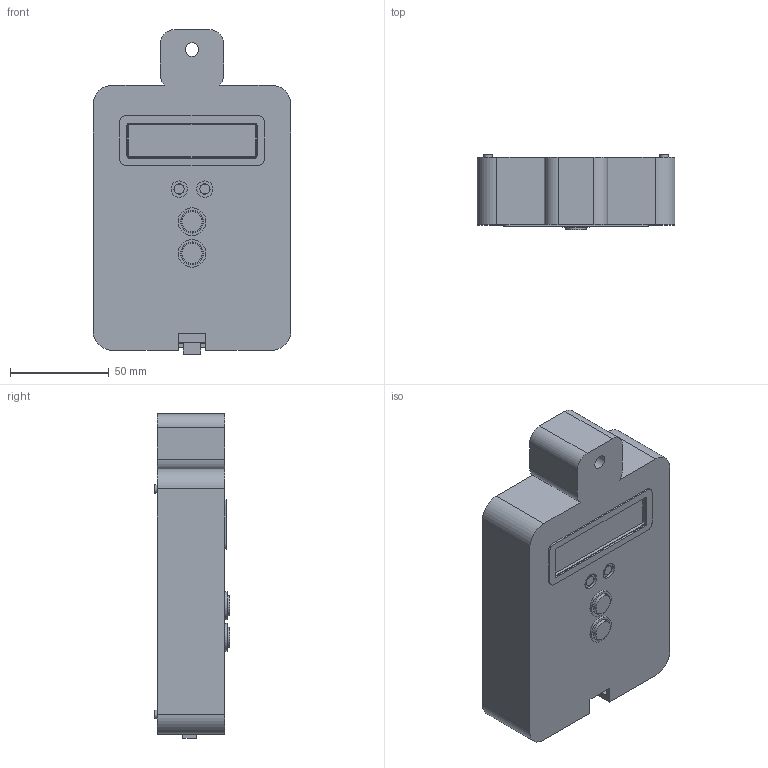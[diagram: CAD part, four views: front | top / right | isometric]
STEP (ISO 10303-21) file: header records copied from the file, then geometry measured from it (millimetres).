
FILE_DESCRIPTION(('Open CASCADE Model'),'2;1');
FILE_NAME('AETHER KEYNODE V1 - layout assembly','2026-10-12T13:28:42',( 'Author'),('Open CASCADE'),'Open CASCADE STEP processor 7.9', 'build123d','Unknown');
FILE_SCHEMA(('AUTOMOTIVE_DESIGN { 1 0 10303 214 1 1 1 1 }'));
Length unit declared in the file: millimetre
Products named in the file (59): AETHER KEYNODE V1 - layout assembly; Printed housing and fasteners; Housing - front shell; Rear cover - removable; Rear cover screw 1 (generic); Rear cover screw 2 (generic); Rear cover screw 3 (generic); Rear cover screw 4 (generic); Front controls and indicators; Round actuator - high priority; Round actuator - low / acknowledge; Green status LED 5mm; Red alert LED 5mm; 6x6 tactile switch 1 envelope; 6x6 tactile switch 2 envelope; 16x2 LCD module reference envelopes; 16x2 LCD PCB envelope 80x36; LCD visible area 64x16; I2C backpack envelope; ESP32 DevKit V1 reference envelopes; ESP32 DevKit V1 PCB envelope 52x28; ESP32 module envelope; USB connector envelope - confirm variant; ESP32 header pin 01; ESP32 header pin 02; ESP32 header pin 03; ESP32 header pin 04; ESP32 header pin 05; ESP32 header pin 06; ESP32 header pin 07; ESP32 header pin 08; ESP32 header pin 09; ESP32 header pin 10; ESP32 header pin 11; ESP32 header pin 12; ESP32 header pin 13; ESP32 header pin 14; ESP32 header pin 15; ESP32 header pin 16; ESP32 header pin 17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
Assembly tree (58 placements, depth 3):
  AETHER KEYNODE V1 - layout assembly
    Printed housing and fasteners
      Housing - front shell
      Rear cover - removable
      Rear cover screw 1 (generic)
      Rear cover screw 2 (generic)
      Rear cover screw 3 (generic)
      Rear cover screw 4 (generic)
    Front controls and indicators
      Round actuator - high priority
      Round actuator - low / acknowledge
      Green status LED 5mm
      Red alert LED 5mm
      6x6 tactile switch 1 envelope
      6x6 tactile switch 2 envelope
    16x2 LCD module reference envelopes
      16x2 LCD PCB envelope 80x36
      LCD visible area 64x16
      I2C backpack envelope
    ESP32 DevKit V1 reference envelopes
      ESP32 DevKit V1 PCB envelope 52x28
      ESP32 module envelope
      USB connector envelope - confirm variant
      ESP32 header pin 01
      ESP32 header pin 02
      ESP32 header pin 03
      ESP32 header pin 04
      ESP32 header pin 05
      ESP32 header pin 06
      ESP32 header pin 07
      ESP32 header pin 08
      ESP32 header pin 09
      ESP32 header pin 10
      ESP32 header pin 11
      ESP32 header pin 12
      ESP32 header pin 13
      ESP32 header pin 14
      ESP32 header pin 15
      ESP32 header pin 16
      ESP32 header pin 17
      ESP32 header pin 18
      ESP32 header pin 19
      ESP32 header pin 20
      ESP32 header pin 21
      ESP32 header pin 22
      ESP32 header pin 23
      ESP32 header pin 24
      ESP32 header pin 25
      ESP32 header pin 26
      ESP32 header pin 27
      ESP32 header pin 28
      ESP32 header pin 29
      ESP32 header pin 30
    Passives and buzzer reference envelopes
      LED current-limit resistor 1 (220-330 ohm)
      LED current-limit resistor 2 (220-330 ohm)
      Two-pin active buzzer 12x7 envelope
      Buzzer pin 1
      Buzzer pin 2
Bounding box: 100 x 37.9 x 164 mm (x, y, z)
Volume: 167123.6 mm3; surface area: 112120.1 mm2
Topology: 57 solids, 57 shells, 510 faces, 1082 edges, 720 vertices
Faces by surface type: plane 408, cylinder 102
Full cylindrical faces by diameter (mm): 0.6 x4, 1.8 x9, 2 x4, 2.1 x4, 2.5 x2, 2.9 x4, 3.5 x4, 3.8 x4, 4.4 x4, 5 x4, 5.2 x2, 7 x1, 8.2 x2, 10.2 x2, 10.8 x2, 11.4 x2, 11.6 x2, 12 x1, 12.4 x2, 14 x2, 14.4 x1
Entity records: 29665 total; most frequent: CARTESIAN_POINT 4979, DIRECTION 4401, LINE 2664, VECTOR 2664, ORIENTED_EDGE 2164, PCURVE 2164, DEFINITIONAL_REPRESENTATION 2164, EDGE_CURVE 1082
